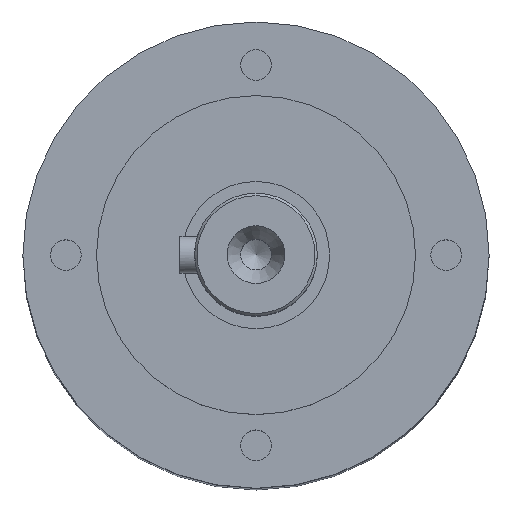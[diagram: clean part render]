
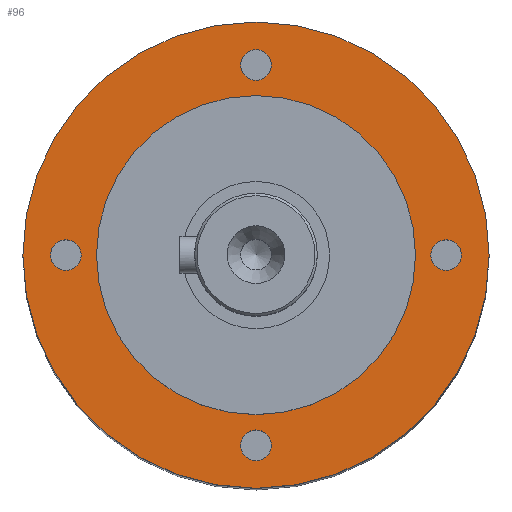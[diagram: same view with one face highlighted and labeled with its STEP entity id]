
A CAD part, top view. The second image highlights one B-rep face of the part: STEP entity #96.
In plain terms, the highlighted planar face has unit normal (0, 0, 1).
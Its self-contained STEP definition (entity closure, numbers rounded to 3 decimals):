
#75=PLANE('',#520);
#96=ADVANCED_FACE('',(#157,#158,#159,#160,#161,#162),#75,.T.);
#157=FACE_BOUND('',#222,.T.);
#158=FACE_BOUND('',#223,.T.);
#159=FACE_BOUND('',#224,.T.);
#160=FACE_BOUND('',#225,.T.);
#161=FACE_BOUND('',#226,.T.);
#162=FACE_BOUND('',#227,.T.);
#222=EDGE_LOOP('',(#296));
#223=EDGE_LOOP('',(#297));
#224=EDGE_LOOP('',(#298));
#225=EDGE_LOOP('',(#299));
#226=EDGE_LOOP('',(#300));
#227=EDGE_LOOP('',(#301));
#296=ORIENTED_EDGE('',*,*,#430,.T.);
#297=ORIENTED_EDGE('',*,*,#431,.T.);
#298=ORIENTED_EDGE('',*,*,#432,.T.);
#299=ORIENTED_EDGE('',*,*,#433,.T.);
#300=ORIENTED_EDGE('',*,*,#429,.T.);
#301=ORIENTED_EDGE('',*,*,#425,.F.);
#382=VERTEX_POINT('',#748);
#386=VERTEX_POINT('',#758);
#387=VERTEX_POINT('',#761);
#388=VERTEX_POINT('',#763);
#389=VERTEX_POINT('',#765);
#390=VERTEX_POINT('',#767);
#425=EDGE_CURVE('',#382,#382,#471,.T.);
#429=EDGE_CURVE('',#386,#386,#475,.T.);
#430=EDGE_CURVE('',#387,#387,#476,.T.);
#431=EDGE_CURVE('',#388,#388,#477,.T.);
#432=EDGE_CURVE('',#389,#389,#478,.T.);
#433=EDGE_CURVE('',#390,#390,#479,.T.);
#471=CIRCLE('',#508,19.);
#475=CIRCLE('',#514,13.);
#476=CIRCLE('',#516,1.25);
#477=CIRCLE('',#517,1.25);
#478=CIRCLE('',#518,1.25);
#479=CIRCLE('',#519,1.25);
#508=AXIS2_PLACEMENT_3D('',#747,#586,#587);
#514=AXIS2_PLACEMENT_3D('',#757,#598,#599);
#516=AXIS2_PLACEMENT_3D('',#760,#602,#603);
#517=AXIS2_PLACEMENT_3D('',#762,#604,#605);
#518=AXIS2_PLACEMENT_3D('',#764,#606,#607);
#519=AXIS2_PLACEMENT_3D('',#766,#608,#609);
#520=AXIS2_PLACEMENT_3D('',#768,#610,#611);
#586=DIRECTION('',(0.,0.,-1.));
#587=DIRECTION('',(-1.,0.,0.));
#598=DIRECTION('',(0.,0.,-1.));
#599=DIRECTION('',(1.,0.,0.));
#602=DIRECTION('',(0.,0.,-1.));
#603=DIRECTION('',(0.,1.,0.));
#604=DIRECTION('',(0.,0.,-1.));
#605=DIRECTION('',(1.,0.,0.));
#606=DIRECTION('',(0.,0.,-1.));
#607=DIRECTION('',(0.,-1.,0.));
#608=DIRECTION('',(0.,0.,-1.));
#609=DIRECTION('',(-1.,0.,0.));
#610=DIRECTION('',(0.,0.,1.));
#611=DIRECTION('',(1.,0.,0.));
#747=CARTESIAN_POINT('',(0.,0.,0.));
#748=CARTESIAN_POINT('',(-19.,0.,0.));
#757=CARTESIAN_POINT('',(0.,0.,0.));
#758=CARTESIAN_POINT('',(13.,0.,0.));
#760=CARTESIAN_POINT('',(15.5,0.,0.));
#761=CARTESIAN_POINT('',(15.5,1.25,0.));
#762=CARTESIAN_POINT('',(0.,-15.5,0.));
#763=CARTESIAN_POINT('',(1.25,-15.5,0.));
#764=CARTESIAN_POINT('',(-15.5,0.,0.));
#765=CARTESIAN_POINT('',(-15.5,-1.25,0.));
#766=CARTESIAN_POINT('',(0.,15.5,0.));
#767=CARTESIAN_POINT('',(-1.25,15.5,0.));
#768=CARTESIAN_POINT('',(0.,0.,0.));
